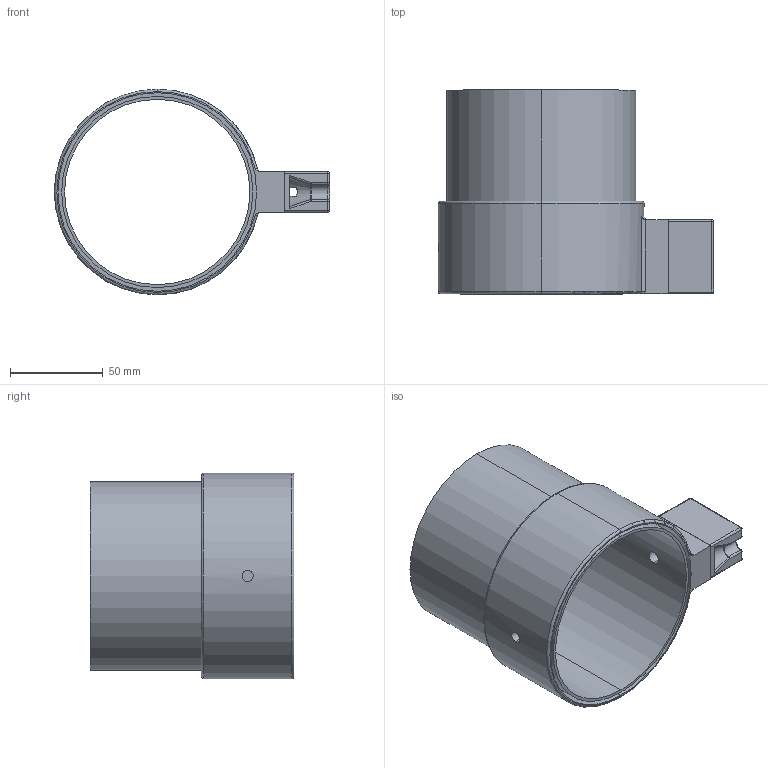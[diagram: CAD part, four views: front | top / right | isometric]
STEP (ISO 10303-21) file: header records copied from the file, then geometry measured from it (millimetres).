
FILE_DESCRIPTION (( 'STEP AP214' ), '1' );
FILE_NAME ('center.STEP', '2026-03-17T12:12:15', ( '' ), ( '' ), 'SwSTEP 2.0', 'SolidWorks 2023', '' );
FILE_SCHEMA (( 'AUTOMOTIVE_DESIGN' ));
Length unit declared in the file: millimetre
Products named in the file (1): center
Bounding box: 148.5 x 110 x 111 mm (x, y, z)
Volume: 108294.5 mm3; surface area: 105722.7 mm2
Topology: 2 solids, 2 shells, 113 faces, 282 edges, 166 vertices
Faces by surface type: plane 44, cylinder 37, torus 12, sphere 12, bspline 6, cone 2
Entity records: 3830 total; most frequent: CARTESIAN_POINT 1154, DIRECTION 560, ORIENTED_EDGE 548, EDGE_CURVE 274, AXIS2_PLACEMENT_3D 214, VERTEX_POINT 166, VECTOR 132, LINE 132
